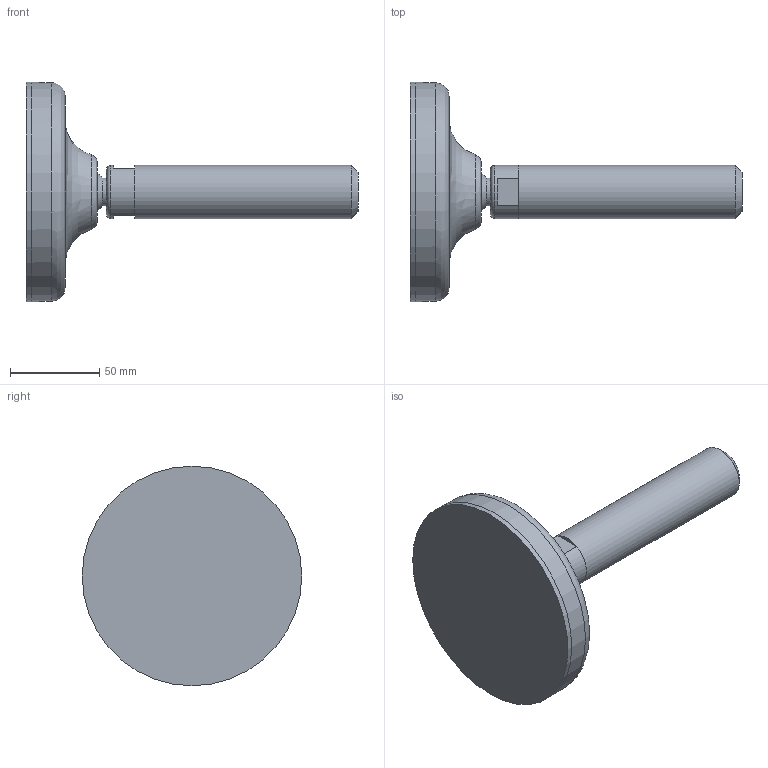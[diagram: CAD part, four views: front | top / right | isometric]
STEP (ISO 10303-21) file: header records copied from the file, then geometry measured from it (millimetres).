
FILE_DESCRIPTION(('STEP AP203'),'2;1');
FILE_NAME('10429.stp','2016-09-19T14:55:05',(''),(''),'2008.1.107','THINKDESIGN','');
FILE_SCHEMA(('CONFIG_CONTROL_DESIGN'));
Length unit declared in the file: millimetre
Bounding box: 186.03 x 123 x 123 mm (x, y, z)
Volume: 390054.5 mm3; surface area: 72449.7 mm2
Topology: 5 solids, 5 shells, 26 faces, 56 edges, 41 vertices
Faces by surface type: plane 15, bspline 7, cylinder 4
Full cylindrical faces by diameter (mm): 15.5 x1, 30 x2, 123 x1
Entity records: 1331 total; most frequent: CARTESIAN_POINT 645, DIRECTION 136, ORIENTED_EDGE 112, AXIS2_PLACEMENT_3D 61, EDGE_CURVE 56, CIRCLE 42, VERTEX_POINT 41, EDGE_LOOP 27
